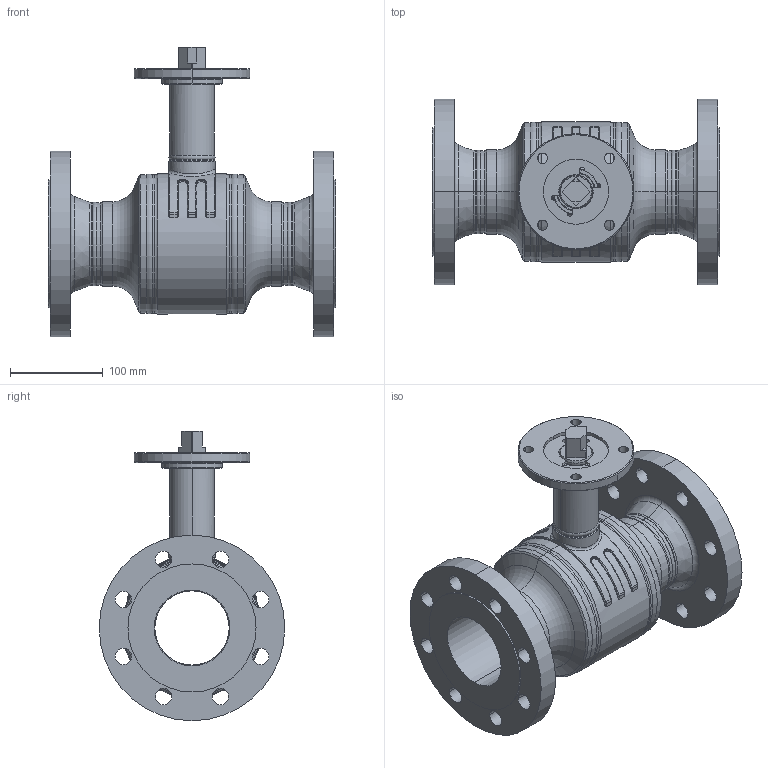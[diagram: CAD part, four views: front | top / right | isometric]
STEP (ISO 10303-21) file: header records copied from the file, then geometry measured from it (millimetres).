
FILE_DESCRIPTION((''),'2;1');
FILE_NAME('KHMO-F-V-H-080P040-VI_SW0001','2025-04-22T15:00:39',('jeitlers'),('KLINGER'),'CREO PARAMETRIC BY PTC INC, 2023014','CREO PARAMETRIC BY PTC INC, 2023014','');
FILE_SCHEMA(('CONFIG_CONTROL_DESIGN'));
Length unit declared in the file: millimetre
Products named in the file (1): KHMO-F-V-H-080P040-VI_SW0001
Bounding box: 310 x 200 x 312 mm (x, y, z)
Volume: 2460016.1 mm3; surface area: 521166.2 mm2
Topology: 3 solids, 3 shells, 499 faces, 1185 edges, 722 vertices
Faces by surface type: cylinder 198, torus 106, plane 89, cone 78, bspline 28
Entity records: 21540 total; most frequent: CARTESIAN_POINT 9565, DIRECTION 2751, ORIENTED_EDGE 2370, EDGE_CURVE 1185, AXIS2_PLACEMENT_3D 1177, VERTEX_POINT 722, CIRCLE 706, EDGE_LOOP 579
